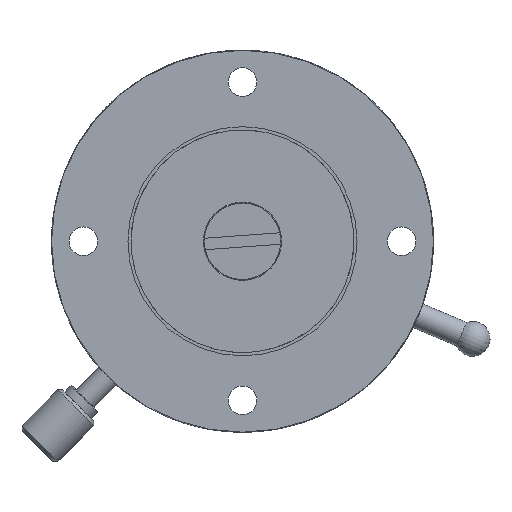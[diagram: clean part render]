
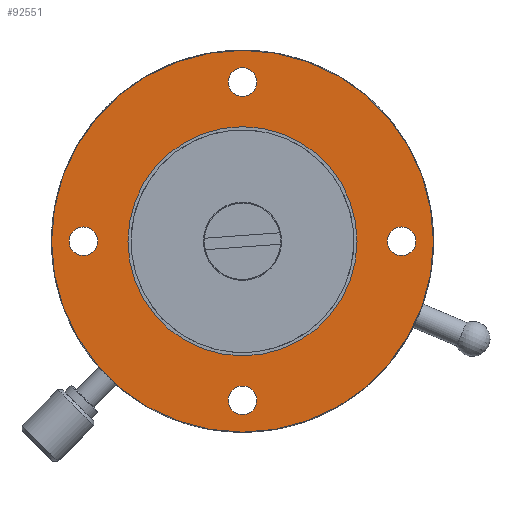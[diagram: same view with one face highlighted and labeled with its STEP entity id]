
A CAD part, front view. The second image highlights one B-rep face of the part: STEP entity #92551.
In plain terms, the highlighted planar face has unit normal (0, -1, 0).
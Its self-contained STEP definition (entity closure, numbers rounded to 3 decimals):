
#111 = VERTEX_POINT ( 'NONE', #92047 ) ;
#3118 = VERTEX_POINT ( 'NONE', #78383 ) ;
#4360 = FACE_OUTER_BOUND ( 'NONE', #8295, .T. ) ;
#6685 = CARTESIAN_POINT ( 'NONE',  ( 25., 0., 2.25 ) ) ;
#8295 = EDGE_LOOP ( 'NONE', ( #44461 ) ) ;
#11350 = DIRECTION ( 'NONE',  ( 0., 1., 0. ) ) ;
#12434 = FACE_BOUND ( 'NONE', #63246, .T. ) ;
#20897 = DIRECTION ( 'NONE',  ( 0., 0., 1. ) ) ;
#21175 = EDGE_CURVE ( 'NONE', #111, #111, #54556, .T. ) ;
#21501 = CARTESIAN_POINT ( 'NONE',  ( 0., 0., 0. ) ) ;
#21786 = DIRECTION ( 'NONE',  ( 0., 0., 1. ) ) ;
#22285 = CARTESIAN_POINT ( 'NONE',  ( -25., 0., 0. ) ) ;
#22408 = CARTESIAN_POINT ( 'NONE',  ( 25., 0., 0. ) ) ;
#22770 = ORIENTED_EDGE ( 'NONE', *, *, #60026, .T. ) ;
#23846 = DIRECTION ( 'NONE',  ( 0., 1., 0. ) ) ;
#24922 = EDGE_LOOP ( 'NONE', ( #89400 ) ) ;
#25855 = VERTEX_POINT ( 'NONE', #85970 ) ;
#26510 = CARTESIAN_POINT ( 'NONE',  ( 0., 0., -25. ) ) ;
#26845 = CARTESIAN_POINT ( 'NONE',  ( 0., 0., -18. ) ) ;
#27105 = PLANE ( 'NONE',  #33348 ) ;
#27288 = ORIENTED_EDGE ( 'NONE', *, *, #36657, .T. ) ;
#29493 = DIRECTION ( 'NONE',  ( 0., 1., 0. ) ) ;
#29676 = AXIS2_PLACEMENT_3D ( 'NONE', #62250, #23846, #77888 ) ;
#31444 = VERTEX_POINT ( 'NONE', #6685 ) ;
#33348 = AXIS2_PLACEMENT_3D ( 'NONE', #65991, #57448, #88211 ) ;
#33769 = CIRCLE ( 'NONE', #88548, 2.25 ) ;
#34684 = FACE_BOUND ( 'NONE', #24922, .T. ) ;
#35012 = CIRCLE ( 'NONE', #52764, 18. ) ;
#36408 = VERTEX_POINT ( 'NONE', #26845 ) ;
#36657 = EDGE_CURVE ( 'NONE', #31444, #31444, #33769, .T. ) ;
#41149 = ORIENTED_EDGE ( 'NONE', *, *, #50294, .T. ) ;
#41530 = VERTEX_POINT ( 'NONE', #55690 ) ;
#42188 = DIRECTION ( 'NONE',  ( 0., 0., 1. ) ) ;
#43166 = DIRECTION ( 'NONE',  ( 0., 1., 0. ) ) ;
#43835 = ORIENTED_EDGE ( 'NONE', *, *, #95877, .F. ) ;
#44461 = ORIENTED_EDGE ( 'NONE', *, *, #67865, .F. ) ;
#48489 = EDGE_LOOP ( 'NONE', ( #41149 ) ) ;
#50294 = EDGE_CURVE ( 'NONE', #3118, #3118, #77742, .T. ) ;
#52764 = AXIS2_PLACEMENT_3D ( 'NONE', #21501, #85098, #67966 ) ;
#54556 = CIRCLE ( 'NONE', #88423, 2.25 ) ;
#55690 = CARTESIAN_POINT ( 'NONE',  ( 0., 0., 30. ) ) ;
#57448 = DIRECTION ( 'NONE',  ( 0., 1., 0. ) ) ;
#60026 = EDGE_CURVE ( 'NONE', #25855, #25855, #76379, .T. ) ;
#62250 = CARTESIAN_POINT ( 'NONE',  ( 0., 0., 25. ) ) ;
#63246 = EDGE_LOOP ( 'NONE', ( #22770 ) ) ;
#63371 = EDGE_LOOP ( 'NONE', ( #27288 ) ) ;
#65500 = FACE_BOUND ( 'NONE', #63371, .T. ) ;
#65991 = CARTESIAN_POINT ( 'NONE',  ( 0., 0., 0. ) ) ;
#67865 = EDGE_CURVE ( 'NONE', #41530, #41530, #70607, .T. ) ;
#67966 = DIRECTION ( 'NONE',  ( 0., 0., -1. ) ) ;
#70607 = CIRCLE ( 'NONE', #80246, 30. ) ;
#75945 = DIRECTION ( 'NONE',  ( 0., 0., 1. ) ) ;
#76379 = CIRCLE ( 'NONE', #29676, 2.25 ) ;
#77742 = CIRCLE ( 'NONE', #82342, 2.25 ) ;
#77888 = DIRECTION ( 'NONE',  ( 0., 0., 1. ) ) ;
#78383 = CARTESIAN_POINT ( 'NONE',  ( 0., 0., -22.75 ) ) ;
#80246 = AXIS2_PLACEMENT_3D ( 'NONE', #81513, #43166, #20897 ) ;
#80622 = FACE_BOUND ( 'NONE', #86564, .T. ) ;
#81513 = CARTESIAN_POINT ( 'NONE',  ( 0., 0., 0. ) ) ;
#82342 = AXIS2_PLACEMENT_3D ( 'NONE', #26510, #11350, #42188 ) ;
#82907 = DIRECTION ( 'NONE',  ( 0., 1., 0. ) ) ;
#85098 = DIRECTION ( 'NONE',  ( 0., -1., 0. ) ) ;
#85970 = CARTESIAN_POINT ( 'NONE',  ( 0., 0., 27.25 ) ) ;
#86564 = EDGE_LOOP ( 'NONE', ( #43835 ) ) ;
#88211 = DIRECTION ( 'NONE',  ( 0., 0., 1. ) ) ;
#88423 = AXIS2_PLACEMENT_3D ( 'NONE', #22285, #82907, #21786 ) ;
#88548 = AXIS2_PLACEMENT_3D ( 'NONE', #22408, #29493, #75945 ) ;
#89400 = ORIENTED_EDGE ( 'NONE', *, *, #21175, .T. ) ;
#92047 = CARTESIAN_POINT ( 'NONE',  ( -25., 0., 2.25 ) ) ;
#92551 = ADVANCED_FACE ( 'NONE', ( #80622, #96299, #12434, #34684, #65500, #4360 ), #27105, .F. ) ;
#95877 = EDGE_CURVE ( 'NONE', #36408, #36408, #35012, .T. ) ;
#96299 = FACE_BOUND ( 'NONE', #48489, .T. ) ;
